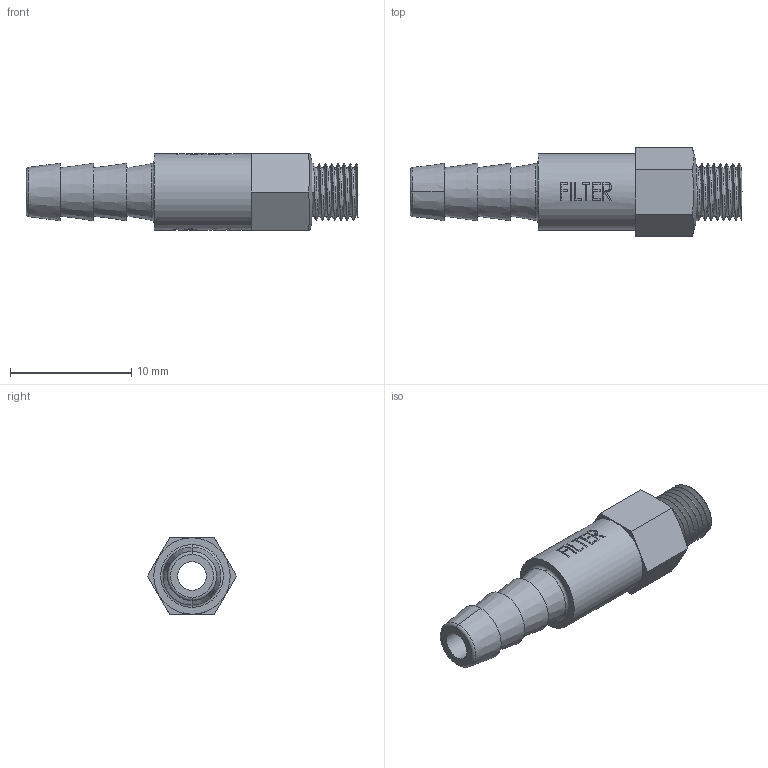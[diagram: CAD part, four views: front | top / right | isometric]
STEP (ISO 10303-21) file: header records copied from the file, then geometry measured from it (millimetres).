
FILE_DESCRIPTION(/* description */ ('SolidWorks IGES file using NURBS representation for surfaces '),/* implementation_level */ '2;1');
FILE_NAME(/* name */ 'K:\Normteile INVENTOR\Air-Logic\Filters\F-960-43-B85.IGS.ipt.stp',/* time_stamp */ '2020-05-27T10:40:00+02:00',/* author */ ('amarsh'),/* organization */ (''),/* preprocessor_version */ 'ST-DEVELOPER v18',/* originating_system */ 'Autodesk Inventor 2020',/* authorisation */ '');
FILE_SCHEMA (('AUTOMOTIVE_DESIGN { 1 0 10303 214 3 1 1 }'));
Length unit declared in the file: millimetre
Products named in the file (1): F-960-43-B85.IGS
Bounding box: 27.38 x 7.33 x 6.35 mm (x, y, z)
Volume: 515.8 mm3; surface area: 784.2 mm2
Topology: 1 solids, 1 shells, 156 faces, 419 edges, 282 vertices
Faces by surface type: plane 77, bspline 39, cylinder 30, cone 6, torus 4
Full cylindrical faces by diameter (mm): 2.36 x1, 4.75 x7, 6.3 x1
Entity records: 8961 total; most frequent: CARTESIAN_POINT 5174, ORIENTED_EDGE 838, DIRECTION 681, EDGE_CURVE 419, VERTEX_POINT 282, AXIS2_PLACEMENT_3D 237, LINE 207, VECTOR 207
